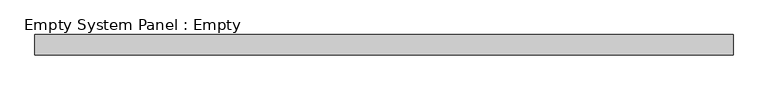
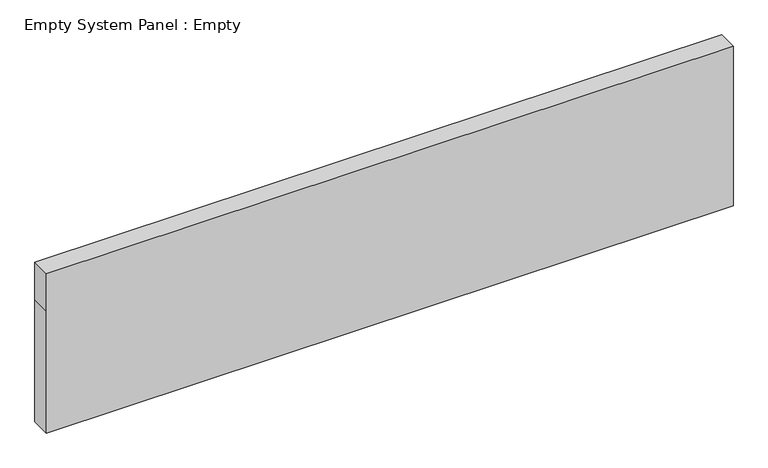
"""IFC4 building model written with IfcOpenShell, lengths in millimetres: plate geometry, Empty System Panel : Empty."""

from ifc_helpers import new_model, si_unit, frame, origin, place, context, project, spatial, polyline, outline, extrude, source, transform, mapped, element, save


def empty_system_panel_empty_4c92e43b(model_context):
    return source(origin(), model_context, "Body", "SweptSolid", [
        extrude(outline(polyline([(0.0, -1732.1), (0.0, 1732.1), (650.0, 1732.1), (850.0, 1732.1), (850.0, -1732.1), (650.0, -1732.1), (0.0, -1732.1)])), frame((0.0, -50.0, 0.0), z_axis=(0.0, 1.0, 0.0), x_axis=(0.0, 0.0, 1.0)), (0.0, 0.0, 1.0), 100.0),
    ])


if __name__ == "__main__":
    model = new_model("IFC4")
    model_context = context("Model", 3, world=origin())
    ifc_project = project(units=[si_unit("LENGTHUNIT", "METRE", prefix="MILLI")], contexts=[model_context])
    site = spatial("IfcSite", under=ifc_project)
    building = spatial("IfcBuilding", under=site)
    placement = place(None, origin())
    empty_system_panel_empty_shape = empty_system_panel_empty_4c92e43b(model_context)
    element("IfcPlate", 1, ObjectType="Empty System Panel : Empty", at=placement, inside=building, context=model_context, shape_type="MappedRepresentation", body=[
        mapped(empty_system_panel_empty_shape, transform((0.0, 0.0, 0.0), x_axis=(1.0, 0.0, 0.0), y_axis=(0.0, 1.0, 0.0), z_axis=(0.0, 0.0, 1.0))),
    ])
    save(model, "model.ifc")
